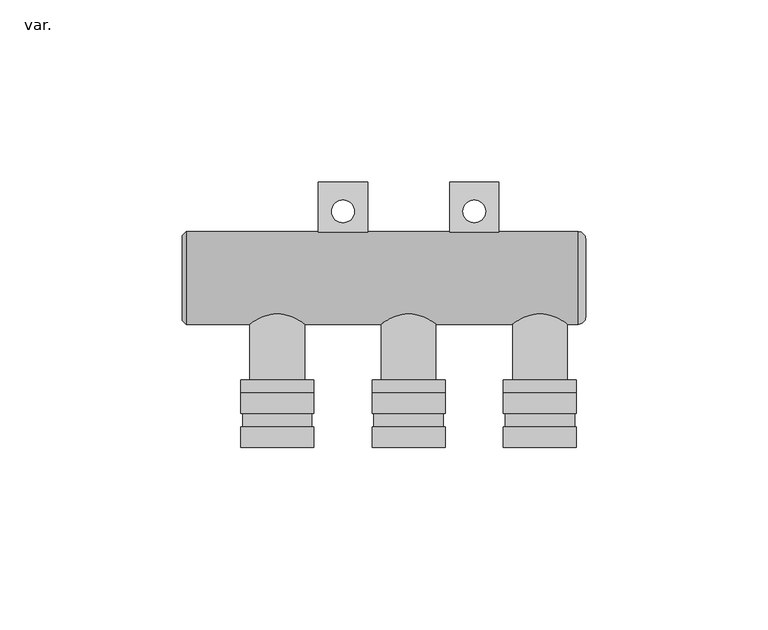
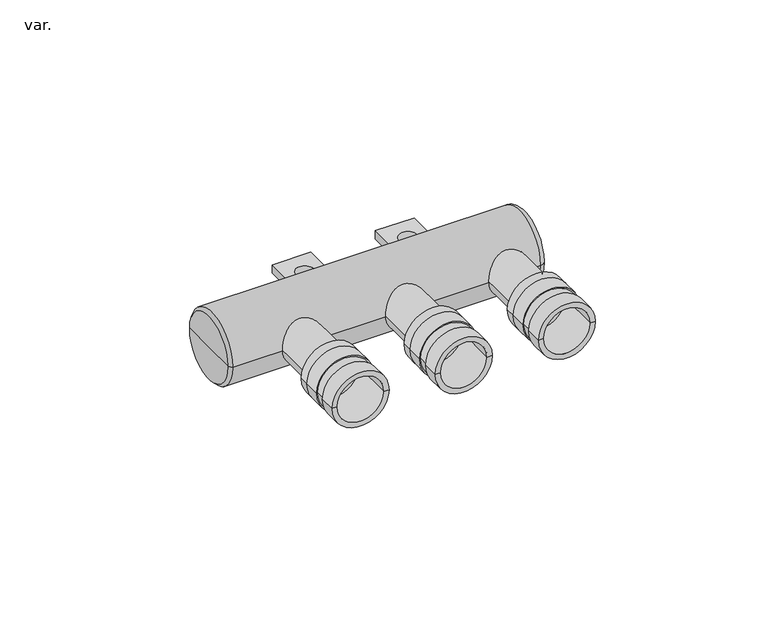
"""IFC4 building model written with IfcOpenShell, lengths in millimetres: pipe fitting geometry, AmancoWavin_ConexõesdeTubos_PEXMódulodeDistribuiçãoFechado : var.."""

import ifcopenshell
import ifcopenshell.guid

model = None  # the IFC model being written
_history = None  # IfcOwnerHistory: only IFC2X3 demands one
_inside = {}  # id of a spatial element -> (the spatial element, [elements in it])
_under = {}  # id of a project, library or spatial element -> (it, [spatial elements below it])
_declared = {}  # id of a project -> (the project, [libraries it declares])
_typed = {}  # id of a type object -> (the type object, [elements of that type])
_made_of = {}  # id of a material, layer set ... -> (it, [elements and type objects made of it])


def new_model(schema):
    """Start an empty IFC model of exactly this schema.

    Asked for "IFC4X3", IfcOpenShell would pick the latest addendum, in which some entities
    have other attributes; the version numbers below select the first issue.
    IFC2X3 requires an IfcOwnerHistory on every rooted entity: one is made here for all.
    """
    global model, _history
    if schema == "IFC4X3":
        model = ifcopenshell.file(schema_version=(4, 3, 0, 0))
    else:
        model = ifcopenshell.file(schema=schema)
    _inside.clear()
    _under.clear()
    _declared.clear()
    _typed.clear()
    _made_of.clear()
    _history = None
    if model.schema == "IFC2X3":
        org = make("IfcOrganization", Name="unknown")
        user = make(
            "IfcPersonAndOrganization",
            ThePerson=make("IfcPerson", FamilyName="unknown"),
            TheOrganization=org,
        )
        app = make(
            "IfcApplication",
            ApplicationDeveloper=org,
            Version="unknown",
            ApplicationFullName="unknown",
            ApplicationIdentifier="unknown",
        )
        _history = make(
            "IfcOwnerHistory",
            OwningUser=user,
            OwningApplication=app,
            ChangeAction="ADDED",
            CreationDate=0,
        )
    return model


def make(cls, **values):
    """One entity of the class cls with the attributes given. An attribute that is None is left unset."""
    return model.create_entity(
        cls, **{name: value for name, value in values.items() if value is not None}
    )


def rooted(cls, **values):
    """An entity with a GlobalId (a new one), such as an element, a storey or a relation."""
    return make(cls, GlobalId=ifcopenshell.guid.new(), OwnerHistory=_history, **values)


def si_unit(unit_type, name, prefix=None):
    """IfcSIUnit, for example si_unit("LENGTHUNIT", "METRE", prefix="MILLI")."""
    return make("IfcSIUnit", UnitType=unit_type, Prefix=prefix, Name=name)


def assignment(units):
    """IfcUnitAssignment: the units of a project."""
    return None if units is None else make("IfcUnitAssignment", Units=units)


def point(xyz):
    """IfcCartesianPoint."""
    return None if xyz is None else make("IfcCartesianPoint", Coordinates=xyz)


def direction(xyz):
    """IfcDirection."""
    return None if xyz is None else make("IfcDirection", DirectionRatios=xyz)


def frame(location, z_axis=None, x_axis=None):
    """IfcAxis2Placement3D, a coordinate frame: its origin and axes. An axis left out is left unset."""
    return make(
        "IfcAxis2Placement3D",
        Location=point(location),
        Axis=direction(z_axis),
        RefDirection=direction(x_axis),
    )


def frame_2d(location, x_axis=None):
    """IfcAxis2Placement2D, a coordinate frame in the plane: its origin and x axis."""
    return make(
        "IfcAxis2Placement2D", Location=point(location), RefDirection=direction(x_axis)
    )


def origin():
    """The frame at (0, 0, 0) with its axes left unset."""
    return frame((0.0, 0.0, 0.0))


def place(relative_to, where):
    """IfcLocalPlacement: puts the frame where relative to a parent placement (None: the world)."""
    return make(
        "IfcLocalPlacement", PlacementRelTo=relative_to, RelativePlacement=where
    )


def context(
    kind, dimensions, precision=None, world=None, true_north=None, identifier=None
):
    """IfcGeometricRepresentationContext, for example the 3D "Model" context."""
    return make(
        "IfcGeometricRepresentationContext",
        ContextIdentifier=identifier,
        ContextType=kind,
        CoordinateSpaceDimension=dimensions,
        Precision=precision,
        WorldCoordinateSystem=world,
        TrueNorth=true_north,
    )


def project(units=None, contexts=None):
    """IfcProject with its units and contexts."""
    return rooted(
        "IfcProject",
        Name="project",
        RepresentationContexts=contexts,
        UnitsInContext=assignment(units),
    )


def spatial(cls, under=None, at=None, **own):
    """A site, building, storey or space (cls), placed at a placement, below another one or the project."""
    s = rooted(cls, ObjectPlacement=at, **own)
    if under is not None:
        _under.setdefault(under.id(), (under, []))[1].append(s)
    return s


def polyline(points):
    """IfcPolyline through the points."""
    return make("IfcPolyline", Points=[point(p) for p in points])


def circle_curve(where, radius):
    """IfcCircle in the frame where."""
    return make("IfcCircle", Position=where, Radius=radius)


def ellipse_curve(where, semi_axis1, semi_axis2):
    """IfcEllipse in the frame where."""
    return make(
        "IfcEllipse", Position=where, SemiAxis1=semi_axis1, SemiAxis2=semi_axis2
    )


def trimmed(basis, trim1, trim2, sense, master):
    """IfcTrimmedCurve: the piece of a basis curve between two trims."""
    return make(
        "IfcTrimmedCurve",
        BasisCurve=basis,
        Trim1=trim1,
        Trim2=trim2,
        SenseAgreement=sense,
        MasterRepresentation=master,
    )


def segment(curve, same_sense, transition):
    """IfcCompositeCurveSegment."""
    return make(
        "IfcCompositeCurveSegment",
        Transition=transition,
        SameSense=same_sense,
        ParentCurve=curve,
    )


def composite_curve(segments, self_intersect=None):
    """IfcCompositeCurve: segments joined end to end."""
    return make("IfcCompositeCurve", Segments=segments, SelfIntersect=self_intersect)


def outline(outer, holes=None, kind="AREA"):
    """IfcArbitraryClosedProfileDef: a profile drawn as a closed curve; with holes, ...WithVoids."""
    if holes is None:
        return make("IfcArbitraryClosedProfileDef", ProfileType=kind, OuterCurve=outer)
    return make(
        "IfcArbitraryProfileDefWithVoids",
        ProfileType=kind,
        OuterCurve=outer,
        InnerCurves=holes,
    )


def extrude(swept, where, along, depth):
    """IfcExtrudedAreaSolid: the profile swept, set in the frame where, extruded along a direction by depth."""
    return make(
        "IfcExtrudedAreaSolid",
        SweptArea=swept,
        Position=where,
        ExtrudedDirection=direction(along),
        Depth=depth,
    )


def shape(context_of_items, identifier, shape_type, items):
    """IfcShapeRepresentation: the items that make up one representation, for example the "Body"."""
    return make(
        "IfcShapeRepresentation",
        ContextOfItems=context_of_items,
        RepresentationIdentifier=identifier,
        RepresentationType=shape_type,
        Items=items,
    )


def source(mapping_origin, context_of_items, identifier, shape_type, items):
    """IfcRepresentationMap: a shape defined once, which mapped items show again and again."""
    return make(
        "IfcRepresentationMap",
        MappingOrigin=mapping_origin,
        MappedRepresentation=shape(context_of_items, identifier, shape_type, items),
    )


def transform(
    local_origin,
    x_axis=None,
    y_axis=None,
    z_axis=None,
    scale=None,
    scale2=None,
    scale3=None,
    uniform=True,
):
    """IfcCartesianTransformationOperator3D, or its non-uniform kind. x_axis, y_axis, z_axis: its Axis1, 2, 3."""
    if uniform:
        return make(
            "IfcCartesianTransformationOperator3D",
            Axis1=direction(x_axis),
            Axis2=direction(y_axis),
            LocalOrigin=point(local_origin),
            Scale=scale,
            Axis3=direction(z_axis),
        )
    return make(
        "IfcCartesianTransformationOperator3DnonUniform",
        Axis1=direction(x_axis),
        Axis2=direction(y_axis),
        LocalOrigin=point(local_origin),
        Scale=scale,
        Axis3=direction(z_axis),
        Scale2=scale2,
        Scale3=scale3,
    )


def mapped(mapping_source, mapping_target):
    """IfcMappedItem: shows the shape of a source again, moved by a transform."""
    return make(
        "IfcMappedItem", MappingSource=mapping_source, MappingTarget=mapping_target
    )


def made_of(thing, what):
    """Note that an element or type object is made of a material, layer set ...; save() writes the relation."""
    if what is not None:
        _made_of.setdefault(what.id(), (what, []))[1].append(thing)
    return thing


def element(
    cls,
    number,
    at=None,
    inside=None,
    cuts=None,
    type_object=None,
    material=None,
    context=None,
    identifier="Body",
    shape_type=None,
    held_by="IfcProductDefinitionShape",
    body=None,
    shapes=None,
    **own,
):
    """One element of the class cls, such as IfcWall. Its Tag is "e" and its number.

    at: its placement. inside: the storey or other place that contains it. cuts: it is an
    opening in that element (IfcRelVoidsElement). A single representation is given by context,
    identifier, shape_type and body (its items); several are given by shapes. held_by: the class
    of the entity that holds the representations. save() writes the other relations.
    """
    e = rooted(cls, Tag="e%d" % number, ObjectPlacement=at, **own)
    if body is not None:
        shapes = [shape(context, identifier, shape_type, body)]
    if shapes is not None:
        e.Representation = make(held_by, Representations=shapes)
    if inside is not None:
        _inside.setdefault(inside.id(), (inside, []))[1].append(e)
    if cuts is not None:
        rooted(
            "IfcRelVoidsElement", RelatingBuildingElement=cuts, RelatedOpeningElement=e
        )
    if type_object is not None:
        _typed.setdefault(type_object.id(), (type_object, []))[1].append(e)
    return made_of(e, material)


def aggregate(whole, parts):
    """IfcRelAggregates: a whole, such as a stair, and the parts it consists of."""
    return rooted("IfcRelAggregates", RelatingObject=whole, RelatedObjects=parts)


def save(model, path):
    """Write the relations noted so far, then the file.

    IfcRelAggregates (storeys below a building ...), IfcRelContainedInSpatialStructure (elements
    in a storey), IfcRelDefinesByType, IfcRelAssociatesMaterial and IfcRelDeclares: one each for
    every whole, place, type object, material and project.
    """
    for whole, parts in _under.values():
        aggregate(whole, parts)
    for where, things in _inside.values():
        rooted(
            "IfcRelContainedInSpatialStructure",
            RelatedElements=things,
            RelatingStructure=where,
        )
    for kind, things in _typed.values():
        rooted("IfcRelDefinesByType", RelatedObjects=things, RelatingType=kind)
    for what, things in _made_of.values():
        rooted("IfcRelAssociatesMaterial", RelatedObjects=things, RelatingMaterial=what)
    for by, libraries in _declared.values():
        rooted("IfcRelDeclares", RelatingContext=by, RelatedDefinitions=libraries)
    model.write(path)


def plane_surface(at):
    """IfcPlane: the flat surface through the origin of the frame at, square to its z axis."""
    return make("IfcPlane", Position=at)


def cylinder_surface(at, radius):
    """IfcCylindricalSurface: all points at the distance radius from the z axis of the frame at."""
    return make("IfcCylindricalSurface", Position=at, Radius=radius)


def revolved_surface(curve, axis_point, axis_direction):
    """IfcSurfaceOfRevolution: the curve turned about the line through axis_point along axis_direction."""
    return make(
        "IfcSurfaceOfRevolution",
        SweptCurve=make("IfcArbitraryOpenProfileDef", ProfileType="CURVE", Curve=curve),
        AxisPosition=make("IfcAxis1Placement", Location=point(axis_point), Axis=direction(axis_direction)),
    )


def advanced_brep(points, edges, surfaces, faces):
    """IfcAdvancedBrep: a solid bounded by faces that lie on surfaces and meet in shared edges.

    An edge is (start, end): straight between two places in points (the first is 0);
    or (start, end, curve); or (start, end, curve, False) where it runs against its curve.
    A face is (place in surfaces, loops), or (place, loops, False) where it looks against
    its surface's normal. A loop lists edges by number (the first is 1), with a minus sign
    where the edge is run from its end to its start. The first loop is the outer one.
    """
    corners = [point(p) for p in points]
    vertices = [make("IfcVertexPoint", VertexGeometry=c) for c in corners]
    made = []
    for start, end, *more in edges:
        made.append(
            make(
                "IfcEdgeCurve",
                EdgeStart=vertices[start],
                EdgeEnd=vertices[end],
                EdgeGeometry=more[0] if more else make("IfcPolyline", Points=[corners[start], corners[end]]),
                SameSense=more[1] if len(more) > 1 else True,
            )
        )
    hull = []
    for where, loops, *sense in faces:
        bounds = []
        for j, loop in enumerate(loops):
            ring = [make("IfcOrientedEdge", EdgeElement=made[abs(k) - 1], Orientation=k > 0) for k in loop]
            bounds.append(
                make(
                    "IfcFaceOuterBound" if j == 0 else "IfcFaceBound",
                    Bound=make("IfcEdgeLoop", EdgeList=ring),
                    Orientation=True,
                )
            )
        hull.append(make("IfcAdvancedFace", Bounds=bounds, FaceSurface=surfaces[where], SameSense=sense[0] if sense else True))
    return make("IfcAdvancedBrep", Outer=make("IfcClosedShell", CfsFaces=hull))


def var_8e960154(model_context):
    return source(origin(), model_context, "Body", "SolidModel", [
        advanced_brep(
        [(108.0, -46.5, 0.0), (88.0, -46.5, 0.0), (88.0, -40.875, 0.0), (108.0, -40.875, 0.0), (106.175, -46.5, 0.0), (89.825, -46.5, 0.0), (106.175, -31.5, 0.0), (89.825, -31.5, 0.0), (108.0, -31.5, 0.0), (88.0, -31.5, 0.0), (108.0, -37.125, 0.0), (88.0, -37.125, 0.0), (88.5, -40.875, 0.0), (107.5, -40.875, 0.0), (88.5, -37.125, 0.0), (107.5, -37.125, 0.0)],
        [
            (0, 1, circle_curve(frame((98.0, -46.5, 0.0), z_axis=(0.0, 1.0, 0.0), x_axis=(-1.0, 0.0, 0.0)), 10.0)),
            (1, 2),
            (2, 3, circle_curve(frame((98.0, -40.875, 0.0), z_axis=(0.0, -1.0, 0.0), x_axis=(-1.0, 0.0, 0.0)), 10.0)),
            (3, 0),
            (1, 0, circle_curve(frame((98.0, -46.5, 0.0), z_axis=(0.0, 1.0, 0.0), x_axis=(-1.0, 0.0, 0.0)), 10.0)),
            (3, 2, circle_curve(frame((98.0, -40.875, 0.0), z_axis=(0.0, -1.0, 0.0), x_axis=(-1.0, 0.0, 0.0)), 10.0)),
            (0, 4),
            (4, 5, circle_curve(frame((98.0, -46.5, 0.0), z_axis=(0.0, 1.0, 0.0), x_axis=(-1.0, 0.0, 0.0)), 8.175)),
            (5, 1),
            (5, 4, circle_curve(frame((98.0, -46.5, 0.0), z_axis=(0.0, 1.0, 0.0), x_axis=(-1.0, 0.0, 0.0)), 8.175)),
            (4, 6),
            (6, 7, circle_curve(frame((98.0, -31.5, 0.0), z_axis=(0.0, 1.0, 0.0), x_axis=(-1.0, 0.0, 0.0)), 8.175)),
            (7, 5),
            (7, 6, circle_curve(frame((98.0, -31.5, 0.0), z_axis=(0.0, 1.0, 0.0), x_axis=(-1.0, 0.0, 0.0)), 8.175)),
            (6, 8),
            (8, 9, circle_curve(frame((98.0, -31.5, 0.0), z_axis=(0.0, 1.0, 0.0), x_axis=(-1.0, 0.0, 0.0)), 10.0)),
            (9, 7),
            (9, 8, circle_curve(frame((98.0, -31.5, 0.0), z_axis=(0.0, 1.0, 0.0), x_axis=(-1.0, 0.0, 0.0)), 10.0)),
            (8, 10),
            (10, 11, circle_curve(frame((98.0, -37.125, 0.0), z_axis=(0.0, 1.0, 0.0), x_axis=(-1.0, 0.0, 0.0)), 10.0)),
            (11, 9),
            (11, 10, circle_curve(frame((98.0, -37.125, 0.0), z_axis=(0.0, 1.0, 0.0), x_axis=(-1.0, 0.0, 0.0)), 10.0)),
            (12, 13, circle_curve(frame((98.0, -40.875, 0.0), z_axis=(0.0, -1.0, 0.0), x_axis=(-1.0, 0.0, 0.0)), 9.5)),
            (13, 3),
            (2, 12),
            (13, 12, circle_curve(frame((98.0, -40.875, 0.0), z_axis=(0.0, -1.0, 0.0), x_axis=(-1.0, 0.0, 0.0)), 9.5)),
            (12, 14),
            (14, 15, circle_curve(frame((98.0, -37.125, 0.0), z_axis=(0.0, -1.0, 0.0), x_axis=(-1.0, 0.0, 0.0)), 9.5)),
            (15, 13),
            (15, 14, circle_curve(frame((98.0, -37.125, 0.0), z_axis=(0.0, -1.0, 0.0), x_axis=(-1.0, 0.0, 0.0)), 9.5)),
            (14, 11),
            (10, 15),
        ],
        [
            cylinder_surface(frame((98.0, -2040.6007619, 0.0), z_axis=(0.0, -1.0, 0.0), x_axis=(-1.0, 0.0, 0.0)), 10.0),
            plane_surface(frame((98.0, -46.5, 0.0), z_axis=(0.0, -1.0, 0.0), x_axis=(-1.0, 0.0, 0.0))),
            revolved_surface(polyline([(89.825, -46.5, 0.0), (89.825, -31.5, 0.0)]), (98.0, -2040.6007619, 0.0), (0.0, -1.0, 0.0)),
            plane_surface(frame((98.0, -31.5, 0.0), z_axis=(0.0, 1.0, 0.0), x_axis=(-1.0, 0.0, 0.0))),
            plane_surface(frame((98.0, -40.875, 0.0), z_axis=(0.0, 1.0, 0.0), x_axis=(-1.0, 0.0, 0.0))),
            cylinder_surface(frame((98.0, -2040.6007619, 0.0), z_axis=(0.0, -1.0, 0.0), x_axis=(-1.0, 0.0, 0.0)), 9.5),
            plane_surface(frame((98.0, -37.125, 0.0), z_axis=(0.0, -1.0, 0.0), x_axis=(-1.0, 0.0, 0.0))),
        ],
        [
            (0, [[1, 2, 3, 4]]),
            (0, [[5, -4, 6, -2]]),
            (1, [[-1, 7, 8, 9]]),
            (1, [[-5, -9, 10, -7]]),
            (2, [[-8, 11, 12, 13]]),
            (2, [[-10, -13, 14, -11]]),
            (3, [[-12, 15, 16, 17]]),
            (3, [[-14, -17, 18, -15]]),
            (0, [[-16, 19, 20, 21]]),
            (0, [[-18, -21, 22, -19]]),
            (4, [[23, 24, -3, 25]]),
            (4, [[26, -25, -6, -24]]),
            (5, [[-23, 27, 28, 29]]),
            (5, [[-26, -29, 30, -27]]),
            (6, [[-28, 31, -20, 32]]),
            (6, [[-30, -32, -22, -31]]),
        ],
    ),
        advanced_brep(
        [(72.0, -46.5, 0.0), (52.0, -46.5, 0.0), (52.0, -40.875, 0.0), (72.0, -40.875, 0.0), (70.175, -46.5, 0.0), (53.825, -46.5, 0.0), (70.175, -31.5, 0.0), (53.825, -31.5, 0.0), (72.0, -31.5, 0.0), (52.0, -31.5, 0.0), (72.0, -37.125, 0.0), (52.0, -37.125, 0.0), (52.5, -40.875, 0.0), (71.5, -40.875, 0.0), (52.5, -37.125, 0.0), (71.5, -37.125, 0.0)],
        [
            (0, 1, circle_curve(frame((62.0, -46.5, 0.0), z_axis=(0.0, 1.0, 0.0), x_axis=(-1.0, 0.0, 0.0)), 10.0)),
            (1, 2),
            (2, 3, circle_curve(frame((62.0, -40.875, 0.0), z_axis=(0.0, -1.0, 0.0), x_axis=(-1.0, 0.0, 0.0)), 10.0)),
            (3, 0),
            (1, 0, circle_curve(frame((62.0, -46.5, 0.0), z_axis=(0.0, 1.0, 0.0), x_axis=(-1.0, 0.0, 0.0)), 10.0)),
            (3, 2, circle_curve(frame((62.0, -40.875, 0.0), z_axis=(0.0, -1.0, 0.0), x_axis=(-1.0, 0.0, 0.0)), 10.0)),
            (0, 4),
            (4, 5, circle_curve(frame((62.0, -46.5, 0.0), z_axis=(0.0, 1.0, 0.0), x_axis=(-1.0, 0.0, 0.0)), 8.175)),
            (5, 1),
            (5, 4, circle_curve(frame((62.0, -46.5, 0.0), z_axis=(0.0, 1.0, 0.0), x_axis=(-1.0, 0.0, 0.0)), 8.175)),
            (4, 6),
            (6, 7, circle_curve(frame((62.0, -31.5, 0.0), z_axis=(0.0, 1.0, 0.0), x_axis=(-1.0, 0.0, 0.0)), 8.175)),
            (7, 5),
            (7, 6, circle_curve(frame((62.0, -31.5, 0.0), z_axis=(0.0, 1.0, 0.0), x_axis=(-1.0, 0.0, 0.0)), 8.175)),
            (6, 8),
            (8, 9, circle_curve(frame((62.0, -31.5, 0.0), z_axis=(0.0, 1.0, 0.0), x_axis=(-1.0, 0.0, 0.0)), 10.0)),
            (9, 7),
            (9, 8, circle_curve(frame((62.0, -31.5, 0.0), z_axis=(0.0, 1.0, 0.0), x_axis=(-1.0, 0.0, 0.0)), 10.0)),
            (8, 10),
            (10, 11, circle_curve(frame((62.0, -37.125, 0.0), z_axis=(0.0, 1.0, 0.0), x_axis=(-1.0, 0.0, 0.0)), 10.0)),
            (11, 9),
            (11, 10, circle_curve(frame((62.0, -37.125, 0.0), z_axis=(0.0, 1.0, 0.0), x_axis=(-1.0, 0.0, 0.0)), 10.0)),
            (12, 13, circle_curve(frame((62.0, -40.875, 0.0), z_axis=(0.0, -1.0, 0.0), x_axis=(-1.0, 0.0, 0.0)), 9.5)),
            (13, 3),
            (2, 12),
            (13, 12, circle_curve(frame((62.0, -40.875, 0.0), z_axis=(0.0, -1.0, 0.0), x_axis=(-1.0, 0.0, 0.0)), 9.5)),
            (12, 14),
            (14, 15, circle_curve(frame((62.0, -37.125, 0.0), z_axis=(0.0, -1.0, 0.0), x_axis=(-1.0, 0.0, 0.0)), 9.5)),
            (15, 13),
            (15, 14, circle_curve(frame((62.0, -37.125, 0.0), z_axis=(0.0, -1.0, 0.0), x_axis=(-1.0, 0.0, 0.0)), 9.5)),
            (14, 11),
            (10, 15),
        ],
        [
            cylinder_surface(frame((62.0, -2040.6007619, 0.0), z_axis=(0.0, -1.0, 0.0), x_axis=(-1.0, 0.0, 0.0)), 10.0),
            plane_surface(frame((62.0, -46.5, 0.0), z_axis=(0.0, -1.0, 0.0), x_axis=(-1.0, 0.0, 0.0))),
            revolved_surface(polyline([(53.825, -46.5, 0.0), (53.825, -31.5, 0.0)]), (62.0, -2040.6007619, 0.0), (0.0, -1.0, 0.0)),
            plane_surface(frame((62.0, -31.5, 0.0), z_axis=(0.0, 1.0, 0.0), x_axis=(-1.0, 0.0, 0.0))),
            plane_surface(frame((62.0, -40.875, 0.0), z_axis=(0.0, 1.0, 0.0), x_axis=(-1.0, 0.0, 0.0))),
            cylinder_surface(frame((62.0, -2040.6007619, 0.0), z_axis=(0.0, -1.0, 0.0), x_axis=(-1.0, 0.0, 0.0)), 9.5),
            plane_surface(frame((62.0, -37.125, 0.0), z_axis=(0.0, -1.0, 0.0), x_axis=(-1.0, 0.0, 0.0))),
        ],
        [
            (0, [[1, 2, 3, 4]]),
            (0, [[5, -4, 6, -2]]),
            (1, [[-1, 7, 8, 9]]),
            (1, [[-5, -9, 10, -7]]),
            (2, [[-8, 11, 12, 13]]),
            (2, [[-10, -13, 14, -11]]),
            (3, [[-12, 15, 16, 17]]),
            (3, [[-14, -17, 18, -15]]),
            (0, [[-16, 19, 20, 21]]),
            (0, [[-18, -21, 22, -19]]),
            (4, [[23, 24, -3, 25]]),
            (4, [[26, -25, -6, -24]]),
            (5, [[-23, 27, 28, 29]]),
            (5, [[-26, -29, 30, -27]]),
            (6, [[-28, 31, -20, 32]]),
            (6, [[-30, -32, -22, -31]]),
        ],
    ),
        advanced_brep(
        [(36.0, -46.5, 0.0), (16.0, -46.5, 0.0), (16.0, -40.875, 0.0), (36.0, -40.875, 0.0), (34.175, -46.5, 0.0), (17.825, -46.5, 0.0), (34.175, -31.5, 0.0), (17.825, -31.5, 0.0), (36.0, -31.5, 0.0), (16.0, -31.5, 0.0), (36.0, -37.125, 0.0), (16.0, -37.125, 0.0), (16.5, -40.875, 0.0), (35.5, -40.875, 0.0), (16.5, -37.125, 0.0), (35.5, -37.125, 0.0)],
        [
            (0, 1, circle_curve(frame((26.0, -46.5, 0.0), z_axis=(0.0, 1.0, 0.0), x_axis=(-1.0, 0.0, 0.0)), 10.0)),
            (1, 2),
            (2, 3, circle_curve(frame((26.0, -40.875, 0.0), z_axis=(0.0, -1.0, 0.0), x_axis=(-1.0, 0.0, 0.0)), 10.0)),
            (3, 0),
            (1, 0, circle_curve(frame((26.0, -46.5, 0.0), z_axis=(0.0, 1.0, 0.0), x_axis=(-1.0, 0.0, 0.0)), 10.0)),
            (3, 2, circle_curve(frame((26.0, -40.875, 0.0), z_axis=(0.0, -1.0, 0.0), x_axis=(-1.0, 0.0, 0.0)), 10.0)),
            (0, 4),
            (4, 5, circle_curve(frame((26.0, -46.5, 0.0), z_axis=(0.0, 1.0, 0.0), x_axis=(-1.0, 0.0, 0.0)), 8.175)),
            (5, 1),
            (5, 4, circle_curve(frame((26.0, -46.5, 0.0), z_axis=(0.0, 1.0, 0.0), x_axis=(-1.0, 0.0, 0.0)), 8.175)),
            (4, 6),
            (6, 7, circle_curve(frame((26.0, -31.5, 0.0), z_axis=(0.0, 1.0, 0.0), x_axis=(-1.0, 0.0, 0.0)), 8.175)),
            (7, 5),
            (7, 6, circle_curve(frame((26.0, -31.5, 0.0), z_axis=(0.0, 1.0, 0.0), x_axis=(-1.0, 0.0, 0.0)), 8.175)),
            (6, 8),
            (8, 9, circle_curve(frame((26.0, -31.5, 0.0), z_axis=(0.0, 1.0, 0.0), x_axis=(-1.0, 0.0, 0.0)), 10.0)),
            (9, 7),
            (9, 8, circle_curve(frame((26.0, -31.5, 0.0), z_axis=(0.0, 1.0, 0.0), x_axis=(-1.0, 0.0, 0.0)), 10.0)),
            (8, 10),
            (10, 11, circle_curve(frame((26.0, -37.125, 0.0), z_axis=(0.0, 1.0, 0.0), x_axis=(-1.0, 0.0, 0.0)), 10.0)),
            (11, 9),
            (11, 10, circle_curve(frame((26.0, -37.125, 0.0), z_axis=(0.0, 1.0, 0.0), x_axis=(-1.0, 0.0, 0.0)), 10.0)),
            (12, 13, circle_curve(frame((26.0, -40.875, 0.0), z_axis=(0.0, -1.0, 0.0), x_axis=(-1.0, 0.0, 0.0)), 9.5)),
            (13, 3),
            (2, 12),
            (13, 12, circle_curve(frame((26.0, -40.875, 0.0), z_axis=(0.0, -1.0, 0.0), x_axis=(-1.0, 0.0, 0.0)), 9.5)),
            (12, 14),
            (14, 15, circle_curve(frame((26.0, -37.125, 0.0), z_axis=(0.0, -1.0, 0.0), x_axis=(-1.0, 0.0, 0.0)), 9.5)),
            (15, 13),
            (15, 14, circle_curve(frame((26.0, -37.125, 0.0), z_axis=(0.0, -1.0, 0.0), x_axis=(-1.0, 0.0, 0.0)), 9.5)),
            (14, 11),
            (10, 15),
        ],
        [
            cylinder_surface(frame((26.0, -2040.6007619, 0.0), z_axis=(0.0, -1.0, 0.0), x_axis=(-1.0, 0.0, 0.0)), 10.0),
            plane_surface(frame((26.0, -46.5, 0.0), z_axis=(0.0, -1.0, 0.0), x_axis=(-1.0, 0.0, 0.0))),
            revolved_surface(polyline([(17.825, -46.5, 0.0), (17.825, -31.5, 0.0)]), (26.0, -2040.6007619, 0.0), (0.0, -1.0, 0.0)),
            plane_surface(frame((26.0, -31.5, 0.0), z_axis=(0.0, 1.0, 0.0), x_axis=(-1.0, 0.0, 0.0))),
            plane_surface(frame((26.0, -40.875, 0.0), z_axis=(0.0, 1.0, 0.0), x_axis=(-1.0, 0.0, 0.0))),
            cylinder_surface(frame((26.0, -2040.6007619, 0.0), z_axis=(0.0, -1.0, 0.0), x_axis=(-1.0, 0.0, 0.0)), 9.5),
            plane_surface(frame((26.0, -37.125, 0.0), z_axis=(0.0, -1.0, 0.0), x_axis=(-1.0, 0.0, 0.0))),
        ],
        [
            (0, [[1, 2, 3, 4]]),
            (0, [[5, -4, 6, -2]]),
            (1, [[-1, 7, 8, 9]]),
            (1, [[-5, -9, 10, -7]]),
            (2, [[-8, 11, 12, 13]]),
            (2, [[-10, -13, 14, -11]]),
            (3, [[-12, 15, 16, 17]]),
            (3, [[-14, -17, 18, -15]]),
            (0, [[-16, 19, 20, 21]]),
            (0, [[-18, -21, 22, -19]]),
            (4, [[23, 24, -3, 25]]),
            (4, [[26, -25, -6, -24]]),
            (5, [[-23, 27, 28, 29]]),
            (5, [[-26, -29, 30, -27]]),
            (6, [[-28, 31, -20, 32]]),
            (6, [[-30, -32, -22, -31]]),
        ],
    ),
        advanced_brep(
        [(108.0, -28.0, 0.0), (88.0, -28.0, 0.0), (90.5, -28.0, 0.0), (105.5, -28.0, 0.0), (108.0, -31.5, 0.0), (88.0, -31.5, 0.0), (98.0, -31.5, 0.0), (105.5, 0.0, 0.0), (90.5, 0.0, 0.0), (98.0, 0.0, 0.0)],
        [
            (0, 1, circle_curve(frame((98.0, -28.0, 0.0), z_axis=(0.0, 1.0, 0.0), x_axis=(-1.0, 0.0, 0.0)), 10.0)),
            (1, 2),
            (2, 3, circle_curve(frame((98.0, -28.0, 0.0), z_axis=(0.0, -1.0, 0.0), x_axis=(-1.0, 0.0, 0.0)), 7.5)),
            (3, 0),
            (1, 0, circle_curve(frame((98.0, -28.0, 0.0), z_axis=(0.0, 1.0, 0.0), x_axis=(-1.0, 0.0, 0.0)), 10.0)),
            (3, 2, circle_curve(frame((98.0, -28.0, 0.0), z_axis=(0.0, -1.0, 0.0), x_axis=(-1.0, 0.0, 0.0)), 7.5)),
            (4, 5, circle_curve(frame((98.0, -31.5, 0.0), z_axis=(0.0, 1.0, 0.0), x_axis=(-1.0, 0.0, 0.0)), 10.0)),
            (5, 1),
            (0, 4),
            (5, 4, circle_curve(frame((98.0, -31.5, 0.0), z_axis=(0.0, 1.0, 0.0), x_axis=(-1.0, 0.0, 0.0)), 10.0)),
            (6, 5),
            (4, 6),
            (7, 8, circle_curve(frame((98.0, 0.0, 0.0), z_axis=(0.0, 1.0, 0.0), x_axis=(-1.0, 0.0, 0.0)), 7.5)),
            (8, 9),
            (9, 7),
            (8, 7, circle_curve(frame((98.0, 0.0, 0.0), z_axis=(0.0, 1.0, 0.0), x_axis=(-1.0, 0.0, 0.0)), 7.5)),
            (2, 8),
            (7, 3),
        ],
        [
            plane_surface(frame((98.0, -28.0, 0.0), z_axis=(0.0, 1.0, 0.0), x_axis=(-1.0, 0.0, 0.0))),
            cylinder_surface(frame((98.0, 0.0, 0.0), z_axis=(0.0, -1.0, 0.0), x_axis=(-1.0, 0.0, 0.0)), 10.0),
            plane_surface(frame((98.0, -31.5, 0.0), z_axis=(0.0, -1.0, 0.0), x_axis=(-1.0, 0.0, 0.0))),
            plane_surface(frame((98.0, 0.0, 0.0), z_axis=(0.0, 1.0, 0.0), x_axis=(-1.0, 0.0, 0.0))),
            cylinder_surface(frame((98.0, 0.0, 0.0), z_axis=(0.0, -1.0, 0.0), x_axis=(-1.0, 0.0, 0.0)), 7.5),
        ],
        [
            (0, [[1, 2, 3, 4]]),
            (0, [[5, -4, 6, -2]]),
            (1, [[7, 8, -1, 9]]),
            (1, [[10, -9, -5, -8]]),
            (2, [[11, -7, 12]]),
            (2, [[-12, -10, -11]]),
            (3, [[13, 14, 15]]),
            (3, [[16, -15, -14]]),
            (4, [[-3, 17, -13, 18]]),
            (4, [[-6, -18, -16, -17]]),
        ],
    ),
        advanced_brep(
        [(72.0, -28.0, 0.0), (52.0, -28.0, 0.0), (54.5, -28.0, 0.0), (69.5, -28.0, 0.0), (72.0, -31.5, 0.0), (52.0, -31.5, 0.0), (62.0, -31.5, 0.0), (69.5, 0.0, 0.0), (54.5, 0.0, 0.0), (62.0, 0.0, 0.0)],
        [
            (0, 1, circle_curve(frame((62.0, -28.0, 0.0), z_axis=(0.0, 1.0, 0.0), x_axis=(-1.0, 0.0, 0.0)), 10.0)),
            (1, 2),
            (2, 3, circle_curve(frame((62.0, -28.0, 0.0), z_axis=(0.0, -1.0, 0.0), x_axis=(-1.0, 0.0, 0.0)), 7.5)),
            (3, 0),
            (1, 0, circle_curve(frame((62.0, -28.0, 0.0), z_axis=(0.0, 1.0, 0.0), x_axis=(-1.0, 0.0, 0.0)), 10.0)),
            (3, 2, circle_curve(frame((62.0, -28.0, 0.0), z_axis=(0.0, -1.0, 0.0), x_axis=(-1.0, 0.0, 0.0)), 7.5)),
            (4, 5, circle_curve(frame((62.0, -31.5, 0.0), z_axis=(0.0, 1.0, 0.0), x_axis=(-1.0, 0.0, 0.0)), 10.0)),
            (5, 1),
            (0, 4),
            (5, 4, circle_curve(frame((62.0, -31.5, 0.0), z_axis=(0.0, 1.0, 0.0), x_axis=(-1.0, 0.0, 0.0)), 10.0)),
            (6, 5),
            (4, 6),
            (7, 8, circle_curve(frame((62.0, 0.0, 0.0), z_axis=(0.0, 1.0, 0.0), x_axis=(-1.0, 0.0, 0.0)), 7.5)),
            (8, 9),
            (9, 7),
            (8, 7, circle_curve(frame((62.0, 0.0, 0.0), z_axis=(0.0, 1.0, 0.0), x_axis=(-1.0, 0.0, 0.0)), 7.5)),
            (2, 8),
            (7, 3),
        ],
        [
            plane_surface(frame((62.0, -28.0, 0.0), z_axis=(0.0, 1.0, 0.0), x_axis=(-1.0, 0.0, 0.0))),
            cylinder_surface(frame((62.0, 0.0, 0.0), z_axis=(0.0, -1.0, 0.0), x_axis=(-1.0, 0.0, 0.0)), 10.0),
            plane_surface(frame((62.0, -31.5, 0.0), z_axis=(0.0, -1.0, 0.0), x_axis=(-1.0, 0.0, 0.0))),
            plane_surface(frame((62.0, 0.0, 0.0), z_axis=(0.0, 1.0, 0.0), x_axis=(-1.0, 0.0, 0.0))),
            cylinder_surface(frame((62.0, 0.0, 0.0), z_axis=(0.0, -1.0, 0.0), x_axis=(-1.0, 0.0, 0.0)), 7.5),
        ],
        [
            (0, [[1, 2, 3, 4]]),
            (0, [[5, -4, 6, -2]]),
            (1, [[7, 8, -1, 9]]),
            (1, [[10, -9, -5, -8]]),
            (2, [[11, -7, 12]]),
            (2, [[-12, -10, -11]]),
            (3, [[13, 14, 15]]),
            (3, [[16, -15, -14]]),
            (4, [[-3, 17, -13, 18]]),
            (4, [[-6, -18, -16, -17]]),
        ],
    ),
        advanced_brep(
        [(36.0, -28.0, 0.0), (16.0, -28.0, 0.0), (18.5, -28.0, 0.0), (33.5, -28.0, 0.0), (36.0, -31.5, 0.0), (16.0, -31.5, 0.0), (26.0, -31.5, 0.0), (33.5, 0.0, 0.0), (18.5, 0.0, 0.0), (26.0, 0.0, 0.0)],
        [
            (0, 1, circle_curve(frame((26.0, -28.0, 0.0), z_axis=(0.0, 1.0, 0.0), x_axis=(-1.0, 0.0, 0.0)), 10.0)),
            (1, 2),
            (2, 3, circle_curve(frame((26.0, -28.0, 0.0), z_axis=(0.0, -1.0, 0.0), x_axis=(-1.0, 0.0, 0.0)), 7.5)),
            (3, 0),
            (1, 0, circle_curve(frame((26.0, -28.0, 0.0), z_axis=(0.0, 1.0, 0.0), x_axis=(-1.0, 0.0, 0.0)), 10.0)),
            (3, 2, circle_curve(frame((26.0, -28.0, 0.0), z_axis=(0.0, -1.0, 0.0), x_axis=(-1.0, 0.0, 0.0)), 7.5)),
            (4, 5, circle_curve(frame((26.0, -31.5, 0.0), z_axis=(0.0, 1.0, 0.0), x_axis=(-1.0, 0.0, 0.0)), 10.0)),
            (5, 1),
            (0, 4),
            (5, 4, circle_curve(frame((26.0, -31.5, 0.0), z_axis=(0.0, 1.0, 0.0), x_axis=(-1.0, 0.0, 0.0)), 10.0)),
            (6, 5),
            (4, 6),
            (7, 8, circle_curve(frame((26.0, 0.0, 0.0), z_axis=(0.0, 1.0, 0.0), x_axis=(-1.0, 0.0, 0.0)), 7.5)),
            (8, 9),
            (9, 7),
            (8, 7, circle_curve(frame((26.0, 0.0, 0.0), z_axis=(0.0, 1.0, 0.0), x_axis=(-1.0, 0.0, 0.0)), 7.5)),
            (2, 8),
            (7, 3),
        ],
        [
            plane_surface(frame((26.0, -28.0, 0.0), z_axis=(0.0, 1.0, 0.0), x_axis=(-1.0, 0.0, 0.0))),
            cylinder_surface(frame((26.0, 0.0, 0.0), z_axis=(0.0, -1.0, 0.0), x_axis=(-1.0, 0.0, 0.0)), 10.0),
            plane_surface(frame((26.0, -31.5, 0.0), z_axis=(0.0, -1.0, 0.0), x_axis=(-1.0, 0.0, 0.0))),
            plane_surface(frame((26.0, 0.0, 0.0), z_axis=(0.0, 1.0, 0.0), x_axis=(-1.0, 0.0, 0.0))),
            cylinder_surface(frame((26.0, 0.0, 0.0), z_axis=(0.0, -1.0, 0.0), x_axis=(-1.0, 0.0, 0.0)), 7.5),
        ],
        [
            (0, [[1, 2, 3, 4]]),
            (0, [[5, -4, 6, -2]]),
            (1, [[7, 8, -1, 9]]),
            (1, [[10, -9, -5, -8]]),
            (2, [[11, -7, 12]]),
            (2, [[-12, -10, -11]]),
            (3, [[13, 14, 15]]),
            (3, [[16, -15, -14]]),
            (4, [[-3, 17, -13, 18]]),
            (4, [[-6, -18, -16, -17]]),
        ],
    ),
        extrude(outline(polyline([(86.75, 0.0), (73.25, 0.0), (73.25, 26.25), (86.75, 26.25), (86.75, 0.0)]), holes=[composite_curve([segment(trimmed(circle_curve(frame_2d((80.0, 18.25)), 3.1), [point((76.9, 18.25))], [point((83.1, 18.25))], True, "CARTESIAN"), True, "CONTINUOUS"), segment(trimmed(circle_curve(frame_2d((80.0, 18.25)), 3.1), [point((83.1, 18.25))], [point((76.9, 18.25))], True, "CARTESIAN"), True, "CONTINUOUS")], self_intersect=False)]), frame((0.0, 0.0, -1.5), z_axis=(0.0, 0.0, 1.0), x_axis=(1.0, 0.0, 0.0)), (0.0, 0.0, 1.0), 3.0),
        extrude(outline(polyline([(50.75, 0.0), (37.25, 0.0), (37.25, 26.25), (50.75, 26.25), (50.75, 0.0)]), holes=[composite_curve([segment(trimmed(circle_curve(frame_2d((44.0, 18.25)), 3.1), [point((40.9, 18.25))], [point((47.1, 18.25))], True, "CARTESIAN"), True, "CONTINUOUS"), segment(trimmed(circle_curve(frame_2d((44.0, 18.25)), 3.1), [point((47.1, 18.25))], [point((40.9, 18.25))], True, "CARTESIAN"), True, "CONTINUOUS")], self_intersect=False)]), frame((0.0, 0.0, -1.5), z_axis=(0.0, 0.0, 1.0), x_axis=(1.0, 0.0, 0.0)), (0.0, 0.0, 1.0), 3.0),
        advanced_brep(
        [(0.0, -11.7, 0.0), (0.0, 11.7, 0.0), (1.0, 12.7, 0.0), (1.0, -12.7, 0.0), (0.0, 0.0, 0.0), (110.5, -10.7, 0.0), (110.5, 10.7, 0.0), (110.5, 0.0, 0.0), (108.5, -12.7, 0.0), (108.5, 12.7, 0.0)],
        [
            (0, 1, circle_curve(frame((0.0, 0.0, 0.0), z_axis=(1.0, 0.0, 0.0), x_axis=(0.0, 1.0, 0.0)), 11.7)),
            (1, 2),
            (2, 3, circle_curve(frame((1.0, 0.0, 0.0), z_axis=(-1.0, 0.0, 0.0), x_axis=(0.0, 1.0, 0.0)), 12.7)),
            (3, 0),
            (1, 0, circle_curve(frame((0.0, 0.0, 0.0), z_axis=(1.0, 0.0, 0.0), x_axis=(0.0, 1.0, 0.0)), 11.7)),
            (3, 2, circle_curve(frame((1.0, 0.0, 0.0), z_axis=(-1.0, 0.0, 0.0), x_axis=(0.0, 1.0, 0.0)), 12.7)),
            (4, 1),
            (0, 4),
            (5, 6, circle_curve(frame((110.5, 0.0, 0.0), z_axis=(1.0, 0.0, 0.0), x_axis=(0.0, 1.0, 0.0)), 10.7)),
            (6, 7),
            (7, 5),
            (6, 5, circle_curve(frame((110.5, 0.0, 0.0), z_axis=(1.0, 0.0, 0.0), x_axis=(0.0, 1.0, 0.0)), 10.7)),
            (8, 9, circle_curve(frame((108.5, 0.0, 0.0), z_axis=(1.0, 0.0, 0.0), x_axis=(0.0, 1.0, 0.0)), 12.7)),
            (9, 6, circle_curve(frame((108.5, 10.7, 0.0), z_axis=(0.0, 0.0, -1.0), x_axis=(1.0, 0.0, 0.0)), 2.0)),
            (5, 8, circle_curve(frame((108.5, -10.7, 0.0), z_axis=(0.0, 0.0, -1.0), x_axis=(1.0, 0.0, 0.0)), 2.0)),
            (9, 8, circle_curve(frame((108.5, 0.0, 0.0), z_axis=(1.0, 0.0, 0.0), x_axis=(0.0, 1.0, 0.0)), 12.7)),
            (2, 9),
            (8, 3),
        ],
        [
            revolved_surface(polyline([(1.0, 12.7, 0.0), (0.0, 11.7, 0.0)]), (-2001.7466803, 0.0, 0.0), (-1.0, 0.0, 0.0)),
            plane_surface(frame((0.0, 0.0, 0.0), z_axis=(-1.0, 0.0, 0.0), x_axis=(0.0, 1.0, 0.0))),
            plane_surface(frame((110.5, 0.0, 0.0), z_axis=(1.0, 0.0, 0.0), x_axis=(0.0, 1.0, 0.0))),
            revolved_surface(trimmed(ellipse_curve(frame((108.5, 10.7, 0.0), z_axis=(0.0, 0.0, 1.0), x_axis=(1.0, 0.0, 0.0)), 2.0, 2.0), [point((110.5, 10.7, 0.0))], [point((108.5, 12.7, 0.0))], True, "CARTESIAN"), (-2001.7466803, 0.0, 0.0), (-1.0, 0.0, 0.0)),
            cylinder_surface(frame((-2001.7466803, 0.0, 0.0), z_axis=(-1.0, 0.0, 0.0), x_axis=(0.0, 1.0, 0.0)), 12.7),
        ],
        [
            (0, [[1, 2, 3, 4]]),
            (0, [[5, -4, 6, -2]]),
            (1, [[7, -1, 8]]),
            (1, [[-8, -5, -7]]),
            (2, [[9, 10, 11]]),
            (2, [[12, -11, -10]]),
            (3, [[13, 14, -9, 15]]),
            (3, [[16, -15, -12, -14]]),
            (4, [[-3, 17, -13, 18]]),
            (4, [[-6, -18, -16, -17]]),
        ],
    ),
    ])


if __name__ == "__main__":
    model = new_model("IFC4")
    model_context = context("Model", 3, world=origin())
    ifc_project = project(units=[si_unit("LENGTHUNIT", "METRE", prefix="MILLI")], contexts=[model_context])
    site = spatial("IfcSite", under=ifc_project)
    building = spatial("IfcBuilding", under=site)
    placement = place(None, origin())
    var_shape = var_8e960154(model_context)
    element("IfcPipeFitting", 1, ObjectType="AmancoWavin_ConexõesdeTubos_PEXMódulodeDistribuiçãoFechado : var.", at=placement, inside=building, context=model_context, shape_type="MappedRepresentation", body=[
        mapped(var_shape, transform((0.0, 0.0, 0.0), x_axis=(1.0, 0.0, 0.0), y_axis=(0.0, 1.0, 0.0), z_axis=(0.0, 0.0, 1.0))),
    ])
    save(model, "model.ifc")
